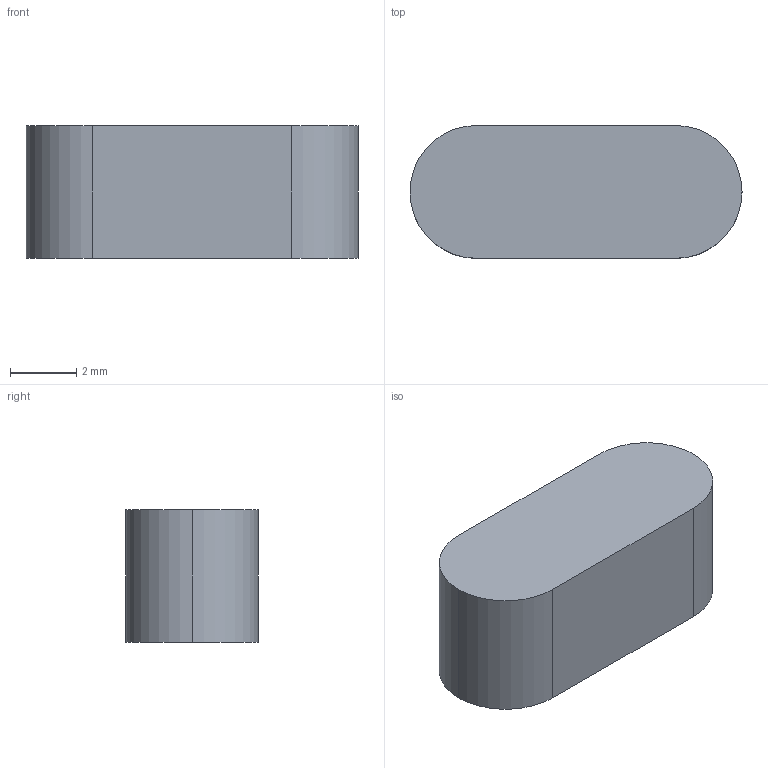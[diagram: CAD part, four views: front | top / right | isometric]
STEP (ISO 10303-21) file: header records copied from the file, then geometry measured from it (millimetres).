
FILE_DESCRIPTION (( 'STEP AP214' ), '1' );
FILE_NAME ('6885-4-4-10-A-NI.step', '2024-09-06T09:50:05', ( '' ), ( '' ), 'SwSTEP 2.0', 'SolidWorks 2022', '' );
FILE_SCHEMA (( 'AUTOMOTIVE_DESIGN' ));
Length unit declared in the file: millimetre
Products named in the file (1): 6885-4-4-10-A-NI
Bounding box: 10 x 4 x 4 mm (x, y, z)
Volume: 146.3 mm3; surface area: 171.4 mm2
Topology: 1 solids, 1 shells, 7 faces, 15 edges, 10 vertices
Faces by surface type: plane 4, cylinder 3
Entity records: 229 total; most frequent: DIRECTION 37, CARTESIAN_POINT 33, ORIENTED_EDGE 30, EDGE_CURVE 15, AXIS2_PLACEMENT_3D 14, VERTEX_POINT 10, LINE 9, VECTOR 9
